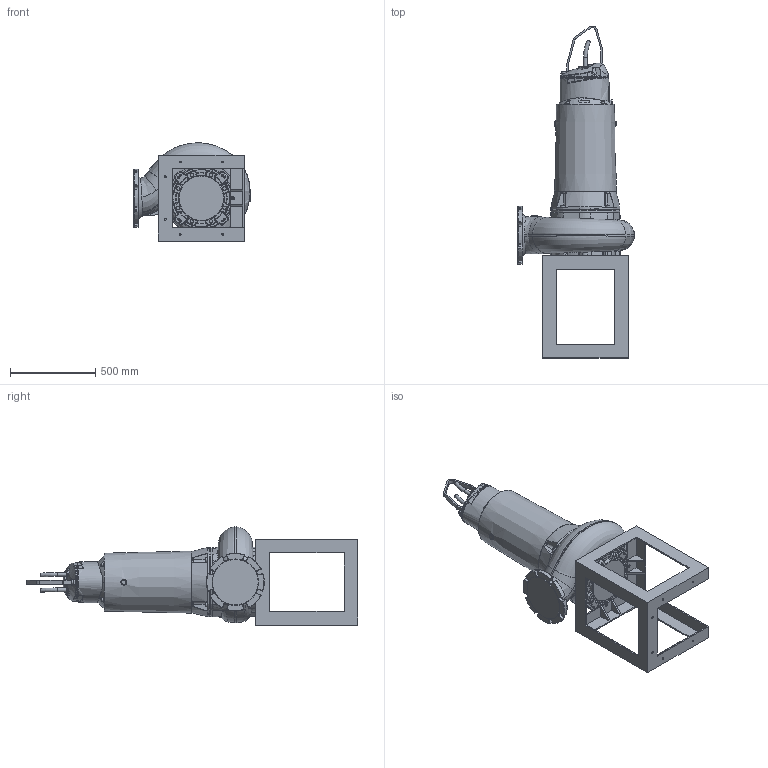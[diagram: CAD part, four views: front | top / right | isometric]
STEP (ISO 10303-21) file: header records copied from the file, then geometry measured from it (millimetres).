
FILE_DESCRIPTION (( 'STEP AP203' ), '1' );
FILE_NAME ('XFP201G-CB2_PE3A_Dry_Vertical-.step', '2023-04-18T10:51:30', ( '' ), ( '' ), 'SwSTEP 2.0', 'SolidWorks 2017', '' );
FILE_SCHEMA (( 'CONFIG_CONTROL_DESIGN' ));
Products named in the file (2): XFP201G-CB2_PE3A_Dry_Vertical-
Bounding box: 690 x 1949.2 x 576.37 mm (x, y, z)
Volume: 141050775 mm3; surface area: 3786583.1 mm2
Topology: 8 solids, 32 shells, 3114 faces, 7359 edges, 4220 vertices
Faces by surface type: bspline 964, cylinder 923, plane 670, torus 353, cone 122, sphere 82
Full cylindrical faces by diameter (mm): 6.8 x2, 8 x7, 8.5 x4, 9 x6, 10 x14, 10.2 x4, 11 x10, 12 x8, 13 x13, 14 x8, 15 x5, 16 x20, 17 x2, 18 x18, 20 x8, 22 x2, 24 x6, 26 x6, 40 x1, 268 x1, 335 x1
Entity records: 148261 total; most frequent: CARTESIAN_POINT 87033, ORIENTED_EDGE 13628, DIRECTION 11194, EDGE_CURVE 6814, AXIS2_PLACEMENT_3D 4576, VERTEX_POINT 4102, EDGE_LOOP 3516, FACE_OUTER_BOUND 3322
